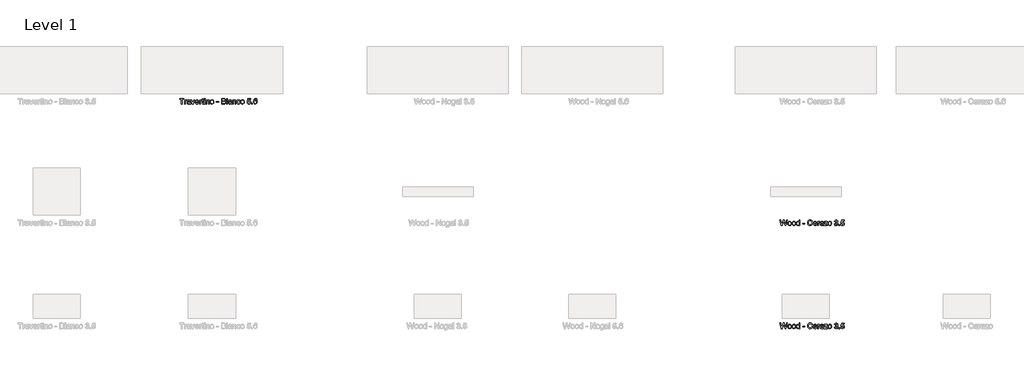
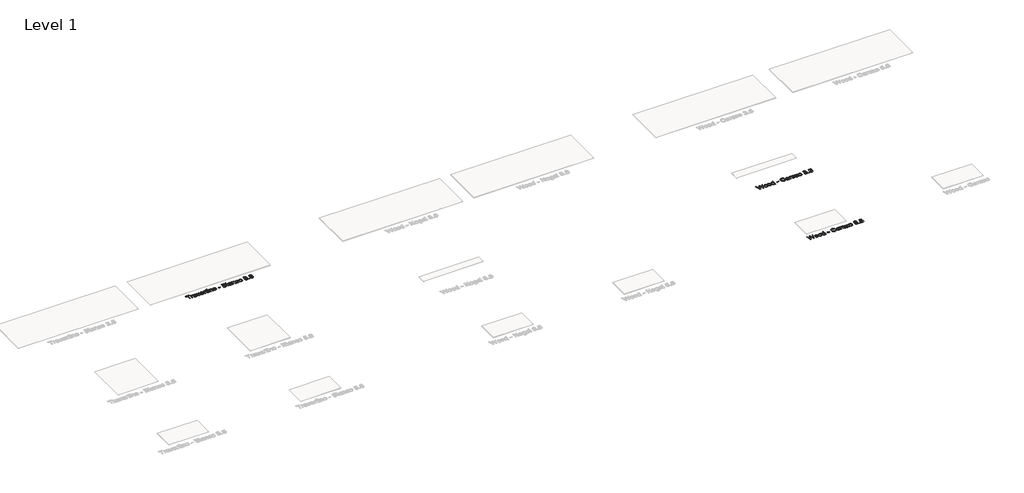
# One storey, part 22 of 80: 3 proxies.
"""IFC4 building model written with IfcOpenShell, lengths in millimetres."""

from ifc_helpers import new_model, si_unit, origin, origin_with_axes, place, context, project, spatial, polyline, outline, extrude, element, save

model = new_model("IFC4")

# Units and contexts
model_context = context("Model", 3, world=origin())
ifc_project = project(units=[si_unit("LENGTHUNIT", "METRE", prefix="MILLI")], contexts=[model_context])

# Site, building, storey
site = spatial("IfcSite", under=ifc_project)
building = spatial("IfcBuilding", under=site)
storey = spatial("IfcBuildingStorey", under=building, Name="Level 1", Elevation=0.0)

# Proxies
placement = place(None, origin())
element("IfcBuildingElementProxy", 1, Name="24\" Arial", ObjectType="24\" Arial", at=placement, inside=storey, context=model_context, shape_type="SweptSolid", body=[
    extrude(outline(polyline([(-15856.3068771, -7643.0201601), (-15856.3068771, -7539.6355447), (-15895.0761079, -7539.6355447), (-15895.0761079, -7524.8663139), (-15802.7684156, -7524.8663139), (-15802.7684156, -7539.6355447), (-15841.5376464, -7539.6355447), (-15841.5376464, -7643.0201601), (-15856.3068771, -7643.0201601)])), origin_with_axes(), (0.0, 0.0, 1.0), 2.0),
    extrude(outline(polyline([(-15787.9991848, -7643.0201601), (-15787.9991848, -7556.2509293), (-15775.0761079, -7556.2509293), (-15775.0761079, -7569.0874678), (-15765.903031, -7557.2605447), (-15756.6722617, -7554.4047755), (-15741.8453387, -7558.9624678), (-15746.778031, -7572.2028524), (-15757.1626464, -7569.1740062), (-15765.5136079, -7572.0874678), (-15770.8357233, -7580.1643908), (-15773.2299541, -7597.4143908), (-15773.2299541, -7643.0201601), (-15787.9991848, -7643.0201601)])), origin_with_axes(), (0.0, 0.0, 1.0), 2.0),
    extrude(outline(polyline([(-15677.2299541, -7631.943237), (-15691.5520694, -7641.9528524), (-15707.3741848, -7644.8663139), (-15719.7167329, -7643.1139101), (-15728.8213002, -7637.8566985), (-15734.4354829, -7629.8735255), (-15736.3068771, -7619.943237), (-15733.4799541, -7608.2605447), (-15726.0520694, -7599.7797755), (-15715.7107233, -7594.9336216), (-15702.9318771, -7592.7124678), (-15677.3164925, -7587.6355447), (-15677.2299541, -7584.3470831), (-15681.2972617, -7573.443237), (-15697.6241848, -7569.1740062), (-15712.5664925, -7572.0153524), (-15719.6914925, -7582.0970831), (-15734.4607233, -7580.2509293), (-15728.0713002, -7565.8278524), (-15715.2059156, -7557.3759293), (-15695.7203387, -7554.4047755), (-15677.8213002, -7557.0297755), (-15667.7107233, -7563.6211216), (-15663.1818771, -7573.6451601), (-15662.4607233, -7586.568237), (-15662.4607233, -7604.943237), (-15661.7107233, -7630.6018908), (-15658.7684156, -7643.0201601), (-15673.5376464, -7643.0201601), (-15677.2299541, -7631.943237)]), holes=[polyline([(-15677.2299541, -7602.4047755), (-15701.0568771, -7606.9336216), (-15713.7636079, -7609.3278524), (-15719.5184156, -7613.2220831), (-15721.5376464, -7618.9047755), (-15717.1386079, -7626.8951601), (-15704.2299541, -7630.0970831), (-15689.2876464, -7626.5634293), (-15679.653031, -7618.0105447), (-15677.3164925, -7606.5874678), (-15677.2299541, -7602.4047755)])]), origin_with_axes(), (0.0, 0.0, 1.0), 2.0),
    extrude(outline(polyline([(-15620.8645694, -7643.0201601), (-15651.3838002, -7556.2509293), (-15635.7491848, -7556.2509293), (-15617.2588002, -7608.2316985), (-15611.6914925, -7625.7124678), (-15606.2395694, -7609.2124678), (-15587.6338002, -7556.2509293), (-15571.9991848, -7556.2509293), (-15602.1434156, -7643.0201601), (-15620.8645694, -7643.0201601)])), origin_with_axes(), (0.0, 0.0, 1.0), 2.0),
    extrude(outline(polyline([(-15498.3261079, -7617.1740062), (-15483.8453387, -7619.0201601), (-15489.0628867, -7629.9312178), (-15497.3886079, -7638.0874678), (-15508.6350021, -7643.1716024), (-15522.6145694, -7644.8663139), (-15539.9438964, -7641.9420351), (-15553.278031, -7633.1691985), (-15561.7804348, -7619.1175158), (-15564.6145694, -7600.3566985), (-15561.7515887, -7580.9648716), (-15553.1626464, -7566.4624678), (-15540.0088002, -7557.4191985), (-15523.4511079, -7554.4047755), (-15507.4090406, -7557.411987), (-15494.590531, -7566.4336216), (-15486.1854829, -7580.9071793), (-15483.3838002, -7600.2701601), (-15483.4703387, -7604.2509293), (-15549.8453387, -7604.2509293), (-15547.2888483, -7615.3062178), (-15541.3501464, -7623.4336216), (-15532.7792329, -7628.4312178), (-15522.3261079, -7630.0970831), (-15507.8453387, -7627.0105447), (-15498.3261079, -7617.1740062)]), holes=[polyline([(-15549.8453387, -7589.4816985), (-15498.153031, -7589.4816985), (-15504.0664925, -7576.0970831), (-15512.6770694, -7570.9047755), (-15523.5088002, -7569.1740062), (-15541.6963002, -7574.6980447), (-15547.418656, -7581.1559774), (-15549.8453387, -7589.4816985)])]), origin_with_axes(), (0.0, 0.0, 1.0), 2.0),
    extrude(outline(polyline([(-15468.6145694, -7643.0201601), (-15468.6145694, -7556.2509293), (-15455.6914925, -7556.2509293), (-15455.6914925, -7569.0874678), (-15446.5184156, -7557.2605447), (-15437.2876464, -7554.4047755), (-15422.4607233, -7558.9624678), (-15427.3934156, -7572.2028524), (-15437.778031, -7569.1740062), (-15446.1289925, -7572.0874678), (-15451.4511079, -7580.1643908), (-15453.8453387, -7597.4143908), (-15453.8453387, -7643.0201601), (-15468.6145694, -7643.0201601)])), origin_with_axes(), (0.0, 0.0, 1.0), 2.0),
    extrude(outline(polyline([(-15381.8453387, -7630.7028524), (-15379.9991848, -7643.4528524), (-15391.0472617, -7644.8663139), (-15403.4222617, -7642.4143908), (-15409.5953387, -7635.9816985), (-15411.3838002, -7619.2220831), (-15411.3838002, -7571.0201601), (-15422.4607233, -7571.0201601), (-15422.4607233, -7556.2509293), (-15411.3838002, -7556.2509293), (-15411.3838002, -7535.1643908), (-15396.6145694, -7526.4816985), (-15396.6145694, -7556.2509293), (-15381.8453387, -7556.2509293), (-15381.8453387, -7571.0201601), (-15396.6145694, -7571.0201601), (-15396.6145694, -7618.7893908), (-15395.8357233, -7626.4047755), (-15393.3116848, -7629.1018908), (-15388.278031, -7630.0970831), (-15381.8453387, -7630.7028524)])), origin_with_axes(), (0.0, 0.0, 1.0), 2.0),
    extrude(outline(polyline([(-15367.0761079, -7539.6355447), (-15367.0761079, -7524.8663139), (-15352.3068771, -7524.8663139), (-15352.3068771, -7539.6355447), (-15367.0761079, -7539.6355447)])), origin_with_axes(), (0.0, 0.0, 1.0), 2.0),
    extrude(outline(polyline([(-15367.0761079, -7643.0201601), (-15367.0761079, -7556.2509293), (-15352.3068771, -7556.2509293), (-15352.3068771, -7643.0201601), (-15367.0761079, -7643.0201601)])), origin_with_axes(), (0.0, 0.0, 1.0), 2.0),
    extrude(outline(polyline([(-15330.153031, -7643.0201601), (-15330.153031, -7556.2509293), (-15315.3838002, -7556.2509293), (-15315.3838002, -7568.3663139), (-15304.090531, -7557.8951601), (-15288.6722617, -7554.4047755), (-15274.7251464, -7557.2172755), (-15265.2059156, -7564.6018908), (-15260.778031, -7575.4624678), (-15259.9991848, -7589.7413139), (-15259.9991848, -7643.0201601), (-15274.7684156, -7643.0201601), (-15274.7684156, -7591.7316985), (-15276.4703387, -7578.6643908), (-15282.4847617, -7571.755737), (-15292.6241848, -7569.1740062), (-15308.6482233, -7574.9720831), (-15313.699906, -7583.3735255), (-15315.3838002, -7596.9816985), (-15315.3838002, -7643.0201601), (-15330.153031, -7643.0201601)])), origin_with_axes(), (0.0, 0.0, 1.0), 2.0),
    extrude(outline(polyline([(-15243.3838002, -7599.6355447), (-15240.1890887, -7578.7148716), (-15230.6049541, -7564.0105447), (-15218.7636079, -7556.8062178), (-15204.5857233, -7554.4047755), (-15189.0700983, -7557.3290543), (-15176.6770694, -7566.1018908), (-15168.5532714, -7580.0309774), (-15165.8453387, -7598.4240062), (-15170.6338002, -7624.7028524), (-15184.5809156, -7639.5730447), (-15204.5857233, -7644.8663139), (-15220.2888483, -7641.9528524), (-15232.6674541, -7633.2124678), (-15240.7047137, -7618.9913139), (-15243.3838002, -7599.6355447)]), holes=[polyline([(-15228.6145694, -7599.6066985), (-15226.9054348, -7612.9732851), (-15221.778031, -7622.4961216), (-15214.0616848, -7628.1968428), (-15204.5857233, -7630.0970831), (-15195.153031, -7628.1860255), (-15187.4511079, -7622.4528524), (-15182.3237041, -7612.8038139), (-15180.6145694, -7599.1451601), (-15182.3345214, -7586.1679966), (-15187.4943771, -7576.7749678), (-15195.2071175, -7571.0742466), (-15204.5857233, -7569.1740062), (-15214.0616848, -7571.0670351), (-15221.778031, -7576.7461216), (-15226.9054348, -7586.2473235), (-15228.6145694, -7599.6066985)])]), origin_with_axes(), (0.0, 0.0, 1.0), 2.0),
    extrude(outline(polyline([(-15110.4607233, -7607.943237), (-15110.4607233, -7593.1740062), (-15064.3068771, -7593.1740062), (-15064.3068771, -7607.943237), (-15110.4607233, -7607.943237)])), origin_with_axes(), (0.0, 0.0, 1.0), 2.0),
    extrude(outline(polyline([(-14999.6914925, -7643.0201601), (-14999.6914925, -7524.8663139), (-14954.6049541, -7524.8663139), (-14932.5232233, -7528.3422755), (-14919.4847617, -7539.0297755), (-14914.7684156, -7554.1451601), (-14918.7347617, -7567.9480447), (-14930.7203387, -7578.4047755), (-14916.1674541, -7589.4240062), (-14911.0761079, -7607.7990062), (-14914.5520694, -7623.6788139), (-14923.1626464, -7634.9865062), (-14936.0136079, -7640.9865062), (-14954.9511079, -7643.0201601), (-14999.6914925, -7643.0201601)]), holes=[polyline([(-14984.9222617, -7628.2509293), (-14954.6338002, -7628.2509293), (-14943.6722617, -7627.6740062), (-14934.3982233, -7624.4576601), (-14928.2539925, -7617.8951601), (-14925.8453387, -7607.943237), (-14928.6722617, -7596.4624678), (-14937.8309156, -7589.6115062), (-14956.0761079, -7587.6355447), (-14984.9222617, -7587.6355447), (-14984.9222617, -7628.2509293)]), polyline([(-14984.9222617, -7572.8663139), (-14957.9511079, -7572.8663139), (-14942.2011079, -7571.5970831), (-14932.7251464, -7566.130737), (-14929.5376464, -7556.5105447), (-14932.5088002, -7546.8759293), (-14941.0184156, -7541.1788139), (-14959.9991848, -7539.6355447), (-14984.9222617, -7539.6355447), (-14984.9222617, -7572.8663139)])]), origin_with_axes(), (0.0, 0.0, 1.0), 2.0),
    extrude(outline(polyline([(-14892.6145694, -7643.0201601), (-14892.6145694, -7524.8663139), (-14877.8453387, -7524.8663139), (-14877.8453387, -7643.0201601), (-14892.6145694, -7643.0201601)])), origin_with_axes(), (0.0, 0.0, 1.0), 2.0),
    extrude(outline(polyline([(-14800.3068771, -7631.943237), (-14814.6289925, -7641.9528524), (-14830.4511079, -7644.8663139), (-14842.793656, -7643.1139101), (-14851.8982233, -7637.8566985), (-14857.512406, -7629.8735255), (-14859.3838002, -7619.943237), (-14856.5568771, -7608.2605447), (-14849.1289925, -7599.7797755), (-14838.7876464, -7594.9336216), (-14826.0088002, -7592.7124678), (-14800.3934156, -7587.6355447), (-14800.3068771, -7584.3470831), (-14804.3741848, -7573.443237), (-14820.7011079, -7569.1740062), (-14835.6434156, -7572.0153524), (-14842.7684156, -7582.0970831), (-14857.5376464, -7580.2509293), (-14851.1482233, -7565.8278524), (-14838.2828387, -7557.3759293), (-14818.7972617, -7554.4047755), (-14800.8982233, -7557.0297755), (-14790.7876464, -7563.6211216), (-14786.2588002, -7573.6451601), (-14785.5376464, -7586.568237), (-14785.5376464, -7604.943237), (-14784.7876464, -7630.6018908), (-14781.8453387, -7643.0201601), (-14796.6145694, -7643.0201601), (-14800.3068771, -7631.943237)]), holes=[polyline([(-14800.3068771, -7602.4047755), (-14824.1338002, -7606.9336216), (-14836.840531, -7609.3278524), (-14842.5953387, -7613.2220831), (-14844.6145694, -7618.9047755), (-14840.215531, -7626.8951601), (-14827.3068771, -7630.0970831), (-14812.3645694, -7626.5634293), (-14802.7299541, -7618.0105447), (-14800.3934156, -7606.5874678), (-14800.3068771, -7602.4047755)])]), origin_with_axes(), (0.0, 0.0, 1.0), 2.0),
    extrude(outline(polyline([(-14765.2299541, -7643.0201601), (-14765.2299541, -7556.2509293), (-14750.4607233, -7556.2509293), (-14750.4607233, -7568.3663139), (-14739.1674541, -7557.8951601), (-14723.7491848, -7554.4047755), (-14709.8020694, -7557.2172755), (-14700.2828387, -7564.6018908), (-14695.8549541, -7575.4624678), (-14695.0761079, -7589.7413139), (-14695.0761079, -7643.0201601), (-14709.8453387, -7643.0201601), (-14709.8453387, -7591.7316985), (-14711.5472617, -7578.6643908), (-14717.5616848, -7571.755737), (-14727.7011079, -7569.1740062), (-14743.7251464, -7574.9720831), (-14748.7768291, -7583.3735255), (-14750.4607233, -7596.9816985), (-14750.4607233, -7643.0201601), (-14765.2299541, -7643.0201601)])), origin_with_axes(), (0.0, 0.0, 1.0), 2.0),
    extrude(outline(polyline([(-14619.3838002, -7611.6355447), (-14604.6145694, -7613.4816985), (-14608.7323579, -7626.6175158), (-14616.4703387, -7636.5441985), (-14627.1001464, -7642.7857851), (-14639.8934156, -7644.8663139), (-14655.6037521, -7641.9636697), (-14667.8886079, -7633.255737), (-14675.8176944, -7619.1247274), (-14678.4607233, -7599.9528524), (-14673.9463002, -7575.4191985), (-14668.2491848, -7566.2208812), (-14660.1866848, -7559.6547755), (-14640.0953387, -7554.4047755), (-14627.6157714, -7556.2076601), (-14617.6386079, -7561.6163139), (-14610.481156, -7570.3422755), (-14606.4607233, -7582.0970831), (-14621.2299541, -7583.943237), (-14628.0809156, -7572.880737), (-14639.9799541, -7569.1740062), (-14649.5244252, -7570.9985255), (-14657.1001464, -7576.4720831), (-14662.043656, -7585.8903524), (-14663.6914925, -7599.5490062), (-14662.0797137, -7613.3915543), (-14657.2443771, -7622.8422755), (-14649.8056752, -7628.2833812), (-14640.3838002, -7630.0970831), (-14626.465531, -7625.568237), (-14619.3838002, -7611.6355447)])), origin_with_axes(), (0.0, 0.0, 1.0), 2.0),
    extrude(outline(polyline([(-14595.3838002, -7599.6355447), (-14592.1890887, -7578.7148716), (-14582.6049541, -7564.0105447), (-14570.7636079, -7556.8062178), (-14556.5857233, -7554.4047755), (-14541.0700983, -7557.3290543), (-14528.6770694, -7566.1018908), (-14520.5532714, -7580.0309774), (-14517.8453387, -7598.4240062), (-14522.6338002, -7624.7028524), (-14536.5809156, -7639.5730447), (-14556.5857233, -7644.8663139), (-14572.2888483, -7641.9528524), (-14584.6674541, -7633.2124678), (-14592.7047137, -7618.9913139), (-14595.3838002, -7599.6355447)]), holes=[polyline([(-14580.6145694, -7599.6066985), (-14578.9054348, -7612.9732851), (-14573.778031, -7622.4961216), (-14566.0616848, -7628.1968428), (-14556.5857233, -7630.0970831), (-14547.153031, -7628.1860255), (-14539.4511079, -7622.4528524), (-14534.3237041, -7612.8038139), (-14532.6145694, -7599.1451601), (-14534.3345214, -7586.1679966), (-14539.4943771, -7576.7749678), (-14547.2071175, -7571.0742466), (-14556.5857233, -7569.1740062), (-14566.0616848, -7571.0670351), (-14573.778031, -7576.7461216), (-14578.9054348, -7586.2473235), (-14580.6145694, -7599.6066985)])]), origin_with_axes(), (0.0, 0.0, 1.0), 2.0),
    extrude(outline(polyline([(-14458.7684156, -7611.6355447), (-14443.9991848, -7609.7893908), (-14436.5568771, -7625.005737), (-14421.1241848, -7630.0970831), (-14410.5376464, -7628.3266505), (-14402.6049541, -7623.0153524), (-14397.6506271, -7614.7761697), (-14395.9991848, -7604.2220831), (-14397.5460598, -7594.2845831), (-14402.1866848, -7586.6836216), (-14409.9571175, -7581.8591024), (-14420.8934156, -7580.2509293), (-14433.8597617, -7582.818237), (-14442.153031, -7589.4816985), (-14456.9222617, -7587.6355447), (-14443.9991848, -7526.7124678), (-14386.7684156, -7526.7124678), (-14386.7684156, -7541.4816985), (-14432.0568771, -7541.4816985), (-14438.3741848, -7574.0201601), (-14427.8237041, -7567.6163139), (-14416.7684156, -7565.4816985), (-14402.9691367, -7568.1283331), (-14391.5136079, -7576.068237), (-14383.8008675, -7588.1691985), (-14381.2299541, -7603.2990062), (-14383.5448579, -7618.068237), (-14390.4895694, -7630.7028524), (-14403.7876464, -7641.3254485), (-14421.1818771, -7644.8663139), (-14435.6878867, -7642.5910735), (-14447.2443771, -7635.7653524), (-14455.1662521, -7625.1824197), (-14458.7684156, -7611.6355447)])), origin_with_axes(), (0.0, 0.0, 1.0), 2.0),
    extrude(outline(polyline([(-14360.9222617, -7643.0201601), (-14360.9222617, -7628.2509293), (-14346.153031, -7628.2509293), (-14346.153031, -7643.0201601), (-14360.9222617, -7643.0201601)])), origin_with_axes(), (0.0, 0.0, 1.0), 2.0),
    extrude(outline(polyline([(-14246.4607233, -7556.2509293), (-14261.2299541, -7558.0970831), (-14266.8261079, -7545.7797755), (-14273.5256271, -7541.1716024), (-14281.6241848, -7539.6355447), (-14294.9511079, -7543.2124678), (-14305.0328387, -7556.6403524), (-14309.2299541, -7582.9624678), (-14296.2059156, -7571.1788139), (-14280.0664925, -7567.3278524), (-14266.4222617, -7569.9600639), (-14254.9703387, -7577.8566985), (-14247.2035117, -7589.9216024), (-14244.6145694, -7605.0586216), (-14249.4895694, -7625.4384293), (-14262.903031, -7639.8615062), (-14282.2588002, -7644.8663139), (-14299.0148098, -7641.5490062), (-14312.3597617, -7631.5970831), (-14321.0893291, -7614.0297755), (-14323.9991848, -7587.8663139), (-14320.7684156, -7558.4504485), (-14311.0761079, -7538.3374678), (-14297.8429348, -7528.2341024), (-14280.7011079, -7524.8663139), (-14267.7419733, -7526.9504485), (-14257.3645694, -7533.2028524), (-14250.0953387, -7543.1331408), (-14246.4607233, -7556.2509293)]), holes=[polyline([(-14309.2299541, -7604.8278524), (-14305.8116848, -7617.6211216), (-14296.7251464, -7626.9095831), (-14283.4126464, -7630.0970831), (-14273.6662521, -7628.4456408), (-14266.0039925, -7623.4913139), (-14261.0388483, -7615.7028524), (-14259.3838002, -7605.5490062), (-14261.0172137, -7595.802612), (-14265.9174541, -7588.3711216), (-14273.7095214, -7583.6655928), (-14284.0184156, -7582.0970831), (-14293.7503867, -7583.6655928), (-14301.8886079, -7588.3711216), (-14307.3946175, -7595.6223235), (-14309.2299541, -7604.8278524)])]), origin_with_axes(), (0.0, 0.0, 1.0), 2.0),
])
element("IfcBuildingElementProxy", 2, Name="24\" Arial", ObjectType="24\" Arial", at=placement, inside=storey, context=model_context, shape_type="SweptSolid", body=[
    extrude(outline(polyline([(-3105.3164925, -10230.2191462), (-3137.5376464, -10112.0653001), (-3122.3068771, -10112.0653001), (-3103.6145694, -10189.7191462), (-3097.8453387, -10213.6903001), (-3091.6722617, -10192.488377), (-3068.2491848, -10112.0653001), (-3046.2972617, -10112.0653001), (-3029.278031, -10170.363377), (-3016.6145694, -10213.6903001), (-3011.0184156, -10190.4114539), (-2992.153031, -10112.0653001), (-2976.9222617, -10112.0653001), (-3009.1722617, -10230.2191462), (-3024.9511079, -10230.2191462), (-3053.278031, -10139.0653001), (-3057.2299541, -10126.3441462), (-3061.6722617, -10141.6614539), (-3087.4895694, -10230.2191462), (-3105.3164925, -10230.2191462)])), origin_with_axes(), (0.0, 0.0, 1.0), 2.0),
    extrude(outline(polyline([(-2967.6914925, -10186.8345308), (-2964.496781, -10165.9138577), (-2954.9126464, -10151.2095308), (-2943.0713002, -10144.0052039), (-2928.8934156, -10141.6037616), (-2913.3777906, -10144.5280404), (-2900.9847617, -10153.300877), (-2892.8609637, -10167.2299635), (-2890.153031, -10185.6229924), (-2894.9414925, -10211.9018385), (-2908.8886079, -10226.7720308), (-2928.8934156, -10232.0653001), (-2944.5965406, -10229.1518385), (-2956.9751464, -10220.4114539), (-2965.012406, -10206.1903001), (-2967.6914925, -10186.8345308)]), holes=[polyline([(-2952.9222617, -10186.8056847), (-2951.2131271, -10200.1722712), (-2946.0857233, -10209.6951077), (-2938.3693771, -10215.3958289), (-2928.8934156, -10217.2960693), (-2919.4607233, -10215.3850116), (-2911.7588002, -10209.6518385), (-2906.6313964, -10200.0028001), (-2904.9222617, -10186.3441462), (-2906.6422137, -10173.3669827), (-2911.8020694, -10163.9739539), (-2919.5148098, -10158.2732327), (-2928.8934156, -10156.3729924), (-2938.3693771, -10158.2660212), (-2946.0857233, -10163.9451077), (-2951.2131271, -10173.4463097), (-2952.9222617, -10186.8056847)])]), origin_with_axes(), (0.0, 0.0, 1.0), 2.0),
    extrude(outline(polyline([(-2877.2299541, -10186.8345308), (-2874.0352425, -10165.9138577), (-2864.4511079, -10151.2095308), (-2852.6097617, -10144.0052039), (-2838.4318771, -10141.6037616), (-2822.9162521, -10144.5280404), (-2810.5232233, -10153.300877), (-2802.3994252, -10167.2299635), (-2799.6914925, -10185.6229924), (-2804.4799541, -10211.9018385), (-2818.4270694, -10226.7720308), (-2838.4318771, -10232.0653001), (-2854.1350021, -10229.1518385), (-2866.5136079, -10220.4114539), (-2874.5508675, -10206.1903001), (-2877.2299541, -10186.8345308)]), holes=[polyline([(-2862.4607233, -10186.8056847), (-2860.7515887, -10200.1722712), (-2855.6241848, -10209.6951077), (-2847.9078387, -10215.3958289), (-2838.4318771, -10217.2960693), (-2828.9991848, -10215.3850116), (-2821.2972617, -10209.6518385), (-2816.1698579, -10200.0028001), (-2814.4607233, -10186.3441462), (-2816.1806752, -10173.3669827), (-2821.340531, -10163.9739539), (-2829.0532714, -10158.2732327), (-2838.4318771, -10156.3729924), (-2847.9078387, -10158.2660212), (-2855.6241848, -10163.9451077), (-2860.7515887, -10173.4463097), (-2862.4607233, -10186.8056847)])]), origin_with_axes(), (0.0, 0.0, 1.0), 2.0),
    extrude(outline(polyline([(-2729.5376464, -10230.2191462), (-2729.5376464, -10216.2864539), (-2739.309281, -10228.1205885), (-2752.8164925, -10232.0653001), (-2771.1049541, -10226.3537616), (-2784.028031, -10210.4162616), (-2788.6145694, -10186.9210693), (-2784.3886079, -10163.4114539), (-2779.1097617, -10154.0869347), (-2771.7251464, -10147.2287616), (-2752.8741848, -10141.6037616), (-2739.2588002, -10145.6278001), (-2729.5376464, -10156.0845308), (-2729.5376464, -10112.0653001), (-2714.7684156, -10112.0653001), (-2714.7684156, -10230.2191462), (-2729.5376464, -10230.2191462)]), holes=[polyline([(-2773.8453387, -10186.863377), (-2772.1794733, -10200.222752), (-2767.1818771, -10209.7239539), (-2759.9198579, -10215.4030404), (-2751.4607233, -10217.2960693), (-2743.0051944, -10215.4895789), (-2735.9270694, -10210.0701077), (-2731.1350021, -10200.9366943), (-2729.5376464, -10187.988377), (-2731.1638483, -10173.832127), (-2736.0424541, -10164.0172231), (-2743.3008675, -10158.2840501), (-2752.0664925, -10156.3729924), (-2760.6121656, -10158.2083289), (-2767.6145694, -10163.7143385), (-2772.2876464, -10173.1722712), (-2773.8453387, -10186.863377)])]), origin_with_axes(), (0.0, 0.0, 1.0), 2.0),
    extrude(outline(polyline([(-2653.8453387, -10195.1422231), (-2653.8453387, -10180.3729924), (-2607.6914925, -10180.3729924), (-2607.6914925, -10195.1422231), (-2653.8453387, -10195.1422231)])), origin_with_axes(), (0.0, 0.0, 1.0), 2.0),
    extrude(outline(polyline([(-2459.9991848, -10188.2191462), (-2445.2299541, -10192.0268385), (-2452.0448579, -10209.2371751), (-2462.7395694, -10221.8104924), (-2476.7876464, -10229.5015981), (-2493.6626464, -10232.0653001), (-2510.793656, -10230.1253962), (-2524.3982233, -10224.3056847), (-2534.8261079, -10214.8080885), (-2542.4270694, -10201.8345308), (-2547.0676944, -10186.582127), (-2548.6145694, -10170.2479924), (-2546.8657714, -10153.019627), (-2541.6193771, -10138.1422231), (-2533.1494252, -10126.0881366), (-2521.7299541, -10117.3297231), (-2508.1866848, -10111.9967904), (-2493.3453387, -10110.2191462), (-2477.1518291, -10112.519627), (-2463.7636079, -10119.4210693), (-2453.5989444, -10130.4979924), (-2447.0761079, -10145.3249154), (-2461.8453387, -10148.8441462), (-2466.965531, -10138.0737135), (-2473.9607233, -10130.6854924), (-2482.9174541, -10126.4126558), (-2493.9222617, -10124.988377), (-2506.6073579, -10126.5677039), (-2517.028031, -10131.3056847), (-2524.9354829, -10138.7047231), (-2530.0809156, -10148.2672231), (-2533.8453387, -10170.2191462), (-2529.3886079, -10195.6614539), (-2523.6914925, -10205.1626558), (-2515.5136079, -10211.9162616), (-2495.1338002, -10217.2960693), (-2482.8056752, -10215.4643385), (-2472.5328387, -10209.9691462), (-2464.7768291, -10200.8681847), (-2459.9991848, -10188.2191462)])), origin_with_axes(), (0.0, 0.0, 1.0), 2.0),
    extrude(outline(polyline([(-2366.0184156, -10204.3729924), (-2351.5376464, -10206.2191462), (-2356.7551944, -10217.1302039), (-2365.0809156, -10225.2864539), (-2376.3273098, -10230.3705885), (-2390.3068771, -10232.0653001), (-2407.6362041, -10229.1410212), (-2420.9703387, -10220.3681847), (-2429.4727425, -10206.316502), (-2432.3068771, -10187.5556847), (-2429.4438964, -10168.1638577), (-2420.8549541, -10153.6614539), (-2407.7011079, -10144.6181847), (-2391.1434156, -10141.6037616), (-2375.1013483, -10144.6109731), (-2362.2828387, -10153.6326077), (-2353.8777906, -10168.1061654), (-2351.0761079, -10187.4691462), (-2351.1626464, -10191.4499154), (-2417.5376464, -10191.4499154), (-2414.981156, -10202.5052039), (-2409.0424541, -10210.6326077), (-2400.4715406, -10215.6302039), (-2390.0184156, -10217.2960693), (-2375.5376464, -10214.2095308), (-2366.0184156, -10204.3729924)]), holes=[polyline([(-2417.5376464, -10176.6806847), (-2365.8453387, -10176.6806847), (-2371.7588002, -10163.2960693), (-2380.3693771, -10158.1037616), (-2391.2011079, -10156.3729924), (-2409.3886079, -10161.8970308), (-2415.1109637, -10168.3549635), (-2417.5376464, -10176.6806847)])]), origin_with_axes(), (0.0, 0.0, 1.0), 2.0),
    extrude(outline(polyline([(-2336.3068771, -10230.2191462), (-2336.3068771, -10143.4499154), (-2323.3838002, -10143.4499154), (-2323.3838002, -10156.2864539), (-2314.2107233, -10144.4595308), (-2304.9799541, -10141.6037616), (-2290.153031, -10146.1614539), (-2295.0857233, -10159.4018385), (-2305.4703387, -10156.3729924), (-2313.8213002, -10159.2864539), (-2319.1434156, -10167.363377), (-2321.5376464, -10184.613377), (-2321.5376464, -10230.2191462), (-2336.3068771, -10230.2191462)])), origin_with_axes(), (0.0, 0.0, 1.0), 2.0),
    extrude(outline(polyline([(-2220.1722617, -10204.3729924), (-2205.6914925, -10206.2191462), (-2210.9090406, -10217.1302039), (-2219.2347617, -10225.2864539), (-2230.481156, -10230.3705885), (-2244.4607233, -10232.0653001), (-2261.7900502, -10229.1410212), (-2275.1241848, -10220.3681847), (-2283.6265887, -10206.316502), (-2286.4607233, -10187.5556847), (-2283.5977425, -10168.1638577), (-2275.0088002, -10153.6614539), (-2261.8549541, -10144.6181847), (-2245.2972617, -10141.6037616), (-2229.2551944, -10144.6109731), (-2216.4366848, -10153.6326077), (-2208.0316367, -10168.1061654), (-2205.2299541, -10187.4691462), (-2205.3164925, -10191.4499154), (-2271.6914925, -10191.4499154), (-2269.1350021, -10202.5052039), (-2263.1963002, -10210.6326077), (-2254.6253867, -10215.6302039), (-2244.1722617, -10217.2960693), (-2229.6914925, -10214.2095308), (-2220.1722617, -10204.3729924)]), holes=[polyline([(-2271.6914925, -10176.6806847), (-2219.9991848, -10176.6806847), (-2225.9126464, -10163.2960693), (-2234.5232233, -10158.1037616), (-2245.3549541, -10156.3729924), (-2263.5424541, -10161.8970308), (-2269.2648098, -10168.3549635), (-2271.6914925, -10176.6806847)])]), origin_with_axes(), (0.0, 0.0, 1.0), 2.0),
    extrude(outline(polyline([(-2199.6914925, -10230.2191462), (-2199.6914925, -10216.3153001), (-2148.7203387, -10158.2191462), (-2163.8068771, -10158.2191462), (-2195.9991848, -10158.2191462), (-2195.9991848, -10143.4499154), (-2127.6914925, -10143.4499154), (-2127.6914925, -10155.9979924), (-2172.8934156, -10207.5460693), (-2179.8164925, -10215.4499154), (-2162.7395694, -10215.4499154), (-2125.8453387, -10215.4499154), (-2125.8453387, -10230.2191462), (-2199.6914925, -10230.2191462)])), origin_with_axes(), (0.0, 0.0, 1.0), 2.0),
    extrude(outline(polyline([(-2114.7684156, -10186.8345308), (-2111.5737041, -10165.9138577), (-2101.9895694, -10151.2095308), (-2090.1482233, -10144.0052039), (-2075.9703387, -10141.6037616), (-2060.4547137, -10144.5280404), (-2048.0616848, -10153.300877), (-2039.9378867, -10167.2299635), (-2037.2299541, -10185.6229924), (-2042.0184156, -10211.9018385), (-2055.965531, -10226.7720308), (-2075.9703387, -10232.0653001), (-2091.6734637, -10229.1518385), (-2104.0520694, -10220.4114539), (-2112.0893291, -10206.1903001), (-2114.7684156, -10186.8345308)]), holes=[polyline([(-2099.9991848, -10186.8056847), (-2098.2900502, -10200.1722712), (-2093.1626464, -10209.6951077), (-2085.4463002, -10215.3958289), (-2075.9703387, -10217.2960693), (-2066.5376464, -10215.3850116), (-2058.8357233, -10209.6518385), (-2053.7083194, -10200.0028001), (-2051.9991848, -10186.3441462), (-2053.7191367, -10173.3669827), (-2058.8789925, -10163.9739539), (-2066.5917329, -10158.2732327), (-2075.9703387, -10156.3729924), (-2085.4463002, -10158.2660212), (-2093.1626464, -10163.9451077), (-2098.2900502, -10173.4463097), (-2099.9991848, -10186.8056847)])]), origin_with_axes(), (0.0, 0.0, 1.0), 2.0),
    extrude(outline(polyline([(-1978.153031, -10198.8345308), (-1963.3838002, -10196.988377), (-1955.2347617, -10212.5364539), (-1939.9895694, -10217.2960693), (-1929.8645694, -10215.6590501), (-1922.0472617, -10210.7479924), (-1917.0496656, -10203.4210693), (-1915.3838002, -10194.5364539), (-1917.0352425, -10186.1025597), (-1921.9895694, -10179.2624154), (-1929.4895694, -10174.7299635), (-1938.778031, -10173.2191462), (-1949.1338002, -10174.8345308), (-1947.4895694, -10160.0653001), (-1945.1241848, -10160.238377), (-1928.3645694, -10155.9979924), (-1922.7828387, -10150.6181847), (-1920.9222617, -10142.9595308), (-1926.3164925, -10131.4066462), (-1940.2203387, -10126.8345308), (-1954.2972617, -10131.4499154), (-1961.5376464, -10145.2960693), (-1976.3068771, -10143.4499154), (-1971.9583194, -10130.1878962), (-1964.2203387, -10120.2864539), (-1953.6338002, -10114.1205885), (-1940.7395694, -10112.0653001), (-1922.9270694, -10116.1181847), (-1910.465531, -10127.1951077), (-1906.153031, -10142.0941462), (-1910.2491848, -10155.7095308), (-1922.3645694, -10165.488377), (-1913.1193771, -10169.2239539), (-1906.2684156, -10175.5845308), (-1902.028031, -10184.2239539), (-1900.6145694, -10194.7960693), (-1903.4414925, -10209.1903001), (-1911.9222617, -10221.2191462), (-1924.7227425, -10229.3537616), (-1940.5088002, -10232.0653001), (-1954.7876464, -10229.7503962), (-1966.4126464, -10222.8056847), (-1974.496781, -10212.1830885), (-1978.153031, -10198.8345308)])), origin_with_axes(), (0.0, 0.0, 1.0), 2.0),
    extrude(outline(polyline([(-1880.3068771, -10230.2191462), (-1880.3068771, -10215.4499154), (-1865.5376464, -10215.4499154), (-1865.5376464, -10230.2191462), (-1880.3068771, -10230.2191462)])), origin_with_axes(), (0.0, 0.0, 1.0), 2.0),
    extrude(outline(polyline([(-1841.5376464, -10198.8345308), (-1826.7684156, -10196.988377), (-1819.3261079, -10212.2047231), (-1803.8934156, -10217.2960693), (-1793.3068771, -10215.5256366), (-1785.3741848, -10210.2143385), (-1780.4198579, -10201.9751558), (-1778.7684156, -10191.4210693), (-1780.3152906, -10181.4835693), (-1784.9559156, -10173.8826077), (-1792.7263483, -10169.0580885), (-1803.6626464, -10167.4499154), (-1816.6289925, -10170.0172231), (-1824.9222617, -10176.6806847), (-1839.6914925, -10174.8345308), (-1826.7684156, -10113.9114539), (-1769.5376464, -10113.9114539), (-1769.5376464, -10128.6806847), (-1814.8261079, -10128.6806847), (-1821.1434156, -10161.2191462), (-1810.5929348, -10154.8153001), (-1799.5376464, -10152.6806847), (-1785.7383675, -10155.3273193), (-1774.2828387, -10163.2672231), (-1766.5700983, -10175.3681847), (-1763.9991848, -10190.4979924), (-1766.3140887, -10205.2672231), (-1773.2588002, -10217.9018385), (-1786.5568771, -10228.5244347), (-1803.9511079, -10232.0653001), (-1818.4571175, -10229.7900597), (-1830.0136079, -10222.9643385), (-1837.9354829, -10212.3814058), (-1841.5376464, -10198.8345308)])), origin_with_axes(), (0.0, 0.0, 1.0), 2.0),
])
element("IfcBuildingElementProxy", 3, Name="24\" Arial", ObjectType="24\" Arial", at=placement, inside=storey, context=model_context, shape_type="SweptSolid", body=[
    extrude(outline(polyline([(-3105.3164925, -12422.5921493), (-3137.5376464, -12304.4383031), (-3122.3068771, -12304.4383031), (-3103.6145694, -12382.0921493), (-3097.8453387, -12406.0633031), (-3091.6722617, -12384.86138), (-3068.2491848, -12304.4383031), (-3046.2972617, -12304.4383031), (-3029.278031, -12362.73638), (-3016.6145694, -12406.0633031), (-3011.0184156, -12382.784457), (-2992.153031, -12304.4383031), (-2976.9222617, -12304.4383031), (-3009.1722617, -12422.5921493), (-3024.9511079, -12422.5921493), (-3053.278031, -12331.4383031), (-3057.2299541, -12318.7171493), (-3061.6722617, -12334.034457), (-3087.4895694, -12422.5921493), (-3105.3164925, -12422.5921493)])), origin_with_axes(), (0.0, 0.0, 1.0), 2.0),
    extrude(outline(polyline([(-2967.6914925, -12379.2075339), (-2964.496781, -12358.2868608), (-2954.9126464, -12343.5825339), (-2943.0713002, -12336.378207), (-2928.8934156, -12333.9767646), (-2913.3777906, -12336.9010435), (-2900.9847617, -12345.67388), (-2892.8609637, -12359.6029666), (-2890.153031, -12377.9959954), (-2894.9414925, -12404.2748416), (-2908.8886079, -12419.1450339), (-2928.8934156, -12424.4383031), (-2944.5965406, -12421.5248416), (-2956.9751464, -12412.784457), (-2965.012406, -12398.5633031), (-2967.6914925, -12379.2075339)]), holes=[polyline([(-2952.9222617, -12379.1786877), (-2951.2131271, -12392.5452743), (-2946.0857233, -12402.0681108), (-2938.3693771, -12407.768832), (-2928.8934156, -12409.6690723), (-2919.4607233, -12407.7580146), (-2911.7588002, -12402.0248416), (-2906.6313964, -12392.3758031), (-2904.9222617, -12378.7171493), (-2906.6422137, -12365.7399858), (-2911.8020694, -12356.346957), (-2919.5148098, -12350.6462358), (-2928.8934156, -12348.7459954), (-2938.3693771, -12350.6390243), (-2946.0857233, -12356.3181108), (-2951.2131271, -12365.8193127), (-2952.9222617, -12379.1786877)])]), origin_with_axes(), (0.0, 0.0, 1.0), 2.0),
    extrude(outline(polyline([(-2877.2299541, -12379.2075339), (-2874.0352425, -12358.2868608), (-2864.4511079, -12343.5825339), (-2852.6097617, -12336.378207), (-2838.4318771, -12333.9767646), (-2822.9162521, -12336.9010435), (-2810.5232233, -12345.67388), (-2802.3994252, -12359.6029666), (-2799.6914925, -12377.9959954), (-2804.4799541, -12404.2748416), (-2818.4270694, -12419.1450339), (-2838.4318771, -12424.4383031), (-2854.1350021, -12421.5248416), (-2866.5136079, -12412.784457), (-2874.5508675, -12398.5633031), (-2877.2299541, -12379.2075339)]), holes=[polyline([(-2862.4607233, -12379.1786877), (-2860.7515887, -12392.5452743), (-2855.6241848, -12402.0681108), (-2847.9078387, -12407.768832), (-2838.4318771, -12409.6690723), (-2828.9991848, -12407.7580146), (-2821.2972617, -12402.0248416), (-2816.1698579, -12392.3758031), (-2814.4607233, -12378.7171493), (-2816.1806752, -12365.7399858), (-2821.340531, -12356.346957), (-2829.0532714, -12350.6462358), (-2838.4318771, -12348.7459954), (-2847.9078387, -12350.6390243), (-2855.6241848, -12356.3181108), (-2860.7515887, -12365.8193127), (-2862.4607233, -12379.1786877)])]), origin_with_axes(), (0.0, 0.0, 1.0), 2.0),
    extrude(outline(polyline([(-2729.5376464, -12422.5921493), (-2729.5376464, -12408.659457), (-2739.309281, -12420.4935916), (-2752.8164925, -12424.4383031), (-2771.1049541, -12418.7267646), (-2784.028031, -12402.7892646), (-2788.6145694, -12379.2940723), (-2784.3886079, -12355.784457), (-2779.1097617, -12346.4599377), (-2771.7251464, -12339.6017646), (-2752.8741848, -12333.9767646), (-2739.2588002, -12338.0008031), (-2729.5376464, -12348.4575339), (-2729.5376464, -12304.4383031), (-2714.7684156, -12304.4383031), (-2714.7684156, -12422.5921493), (-2729.5376464, -12422.5921493)]), holes=[polyline([(-2773.8453387, -12379.23638), (-2772.1794733, -12392.595755), (-2767.1818771, -12402.096957), (-2759.9198579, -12407.7760435), (-2751.4607233, -12409.6690723), (-2743.0051944, -12407.862582), (-2735.9270694, -12402.4431108), (-2731.1350021, -12393.3096973), (-2729.5376464, -12380.36138), (-2731.1638483, -12366.20513), (-2736.0424541, -12356.3902262), (-2743.3008675, -12350.6570531), (-2752.0664925, -12348.7459954), (-2760.6121656, -12350.581332), (-2767.6145694, -12356.0873416), (-2772.2876464, -12365.5452743), (-2773.8453387, -12379.23638)])]), origin_with_axes(), (0.0, 0.0, 1.0), 2.0),
    extrude(outline(polyline([(-2653.8453387, -12387.5152262), (-2653.8453387, -12372.7459954), (-2607.6914925, -12372.7459954), (-2607.6914925, -12387.5152262), (-2653.8453387, -12387.5152262)])), origin_with_axes(), (0.0, 0.0, 1.0), 2.0),
    extrude(outline(polyline([(-2459.9991848, -12380.5921493), (-2445.2299541, -12384.3998416), (-2452.0448579, -12401.6101781), (-2462.7395694, -12414.1834954), (-2476.7876464, -12421.8746012), (-2493.6626464, -12424.4383031), (-2510.793656, -12422.4983993), (-2524.3982233, -12416.6786877), (-2534.8261079, -12407.1810916), (-2542.4270694, -12394.2075339), (-2547.0676944, -12378.95513), (-2548.6145694, -12362.6209954), (-2546.8657714, -12345.39263), (-2541.6193771, -12330.5152262), (-2533.1494252, -12318.4611396), (-2521.7299541, -12309.7027262), (-2508.1866848, -12304.3697935), (-2493.3453387, -12302.5921493), (-2477.1518291, -12304.89263), (-2463.7636079, -12311.7940723), (-2453.5989444, -12322.8709954), (-2447.0761079, -12337.6979185), (-2461.8453387, -12341.2171493), (-2466.965531, -12330.4467166), (-2473.9607233, -12323.0584954), (-2482.9174541, -12318.7856589), (-2493.9222617, -12317.36138), (-2506.6073579, -12318.940707), (-2517.028031, -12323.6786877), (-2524.9354829, -12331.0777262), (-2530.0809156, -12340.6402262), (-2533.8453387, -12362.5921493), (-2529.3886079, -12388.034457), (-2523.6914925, -12397.5356589), (-2515.5136079, -12404.2892646), (-2495.1338002, -12409.6690723), (-2482.8056752, -12407.8373416), (-2472.5328387, -12402.3421493), (-2464.7768291, -12393.2411877), (-2459.9991848, -12380.5921493)])), origin_with_axes(), (0.0, 0.0, 1.0), 2.0),
    extrude(outline(polyline([(-2366.0184156, -12396.7459954), (-2351.5376464, -12398.5921493), (-2356.7551944, -12409.503207), (-2365.0809156, -12417.659457), (-2376.3273098, -12422.7435916), (-2390.3068771, -12424.4383031), (-2407.6362041, -12421.5140243), (-2420.9703387, -12412.7411877), (-2429.4727425, -12398.689505), (-2432.3068771, -12379.9286877), (-2429.4438964, -12360.5368608), (-2420.8549541, -12346.034457), (-2407.7011079, -12336.9911877), (-2391.1434156, -12333.9767646), (-2375.1013483, -12336.9839762), (-2362.2828387, -12346.0056108), (-2353.8777906, -12360.4791685), (-2351.0761079, -12379.8421493), (-2351.1626464, -12383.8229185), (-2417.5376464, -12383.8229185), (-2414.981156, -12394.878207), (-2409.0424541, -12403.0056108), (-2400.4715406, -12408.003207), (-2390.0184156, -12409.6690723), (-2375.5376464, -12406.5825339), (-2366.0184156, -12396.7459954)]), holes=[polyline([(-2417.5376464, -12369.0536877), (-2365.8453387, -12369.0536877), (-2371.7588002, -12355.6690723), (-2380.3693771, -12350.4767646), (-2391.2011079, -12348.7459954), (-2409.3886079, -12354.2700339), (-2415.1109637, -12360.7279666), (-2417.5376464, -12369.0536877)])]), origin_with_axes(), (0.0, 0.0, 1.0), 2.0),
    extrude(outline(polyline([(-2336.3068771, -12422.5921493), (-2336.3068771, -12335.8229185), (-2323.3838002, -12335.8229185), (-2323.3838002, -12348.659457), (-2314.2107233, -12336.8325339), (-2304.9799541, -12333.9767646), (-2290.153031, -12338.534457), (-2295.0857233, -12351.7748416), (-2305.4703387, -12348.7459954), (-2313.8213002, -12351.659457), (-2319.1434156, -12359.73638), (-2321.5376464, -12376.98638), (-2321.5376464, -12422.5921493), (-2336.3068771, -12422.5921493)])), origin_with_axes(), (0.0, 0.0, 1.0), 2.0),
    extrude(outline(polyline([(-2220.1722617, -12396.7459954), (-2205.6914925, -12398.5921493), (-2210.9090406, -12409.503207), (-2219.2347617, -12417.659457), (-2230.481156, -12422.7435916), (-2244.4607233, -12424.4383031), (-2261.7900502, -12421.5140243), (-2275.1241848, -12412.7411877), (-2283.6265887, -12398.689505), (-2286.4607233, -12379.9286877), (-2283.5977425, -12360.5368608), (-2275.0088002, -12346.034457), (-2261.8549541, -12336.9911877), (-2245.2972617, -12333.9767646), (-2229.2551944, -12336.9839762), (-2216.4366848, -12346.0056108), (-2208.0316367, -12360.4791685), (-2205.2299541, -12379.8421493), (-2205.3164925, -12383.8229185), (-2271.6914925, -12383.8229185), (-2269.1350021, -12394.878207), (-2263.1963002, -12403.0056108), (-2254.6253867, -12408.003207), (-2244.1722617, -12409.6690723), (-2229.6914925, -12406.5825339), (-2220.1722617, -12396.7459954)]), holes=[polyline([(-2271.6914925, -12369.0536877), (-2219.9991848, -12369.0536877), (-2225.9126464, -12355.6690723), (-2234.5232233, -12350.4767646), (-2245.3549541, -12348.7459954), (-2263.5424541, -12354.2700339), (-2269.2648098, -12360.7279666), (-2271.6914925, -12369.0536877)])]), origin_with_axes(), (0.0, 0.0, 1.0), 2.0),
    extrude(outline(polyline([(-2199.6914925, -12422.5921493), (-2199.6914925, -12408.6883031), (-2148.7203387, -12350.5921493), (-2163.8068771, -12350.5921493), (-2195.9991848, -12350.5921493), (-2195.9991848, -12335.8229185), (-2127.6914925, -12335.8229185), (-2127.6914925, -12348.3709954), (-2172.8934156, -12399.9190723), (-2179.8164925, -12407.8229185), (-2162.7395694, -12407.8229185), (-2125.8453387, -12407.8229185), (-2125.8453387, -12422.5921493), (-2199.6914925, -12422.5921493)])), origin_with_axes(), (0.0, 0.0, 1.0), 2.0),
    extrude(outline(polyline([(-2114.7684156, -12379.2075339), (-2111.5737041, -12358.2868608), (-2101.9895694, -12343.5825339), (-2090.1482233, -12336.378207), (-2075.9703387, -12333.9767646), (-2060.4547137, -12336.9010435), (-2048.0616848, -12345.67388), (-2039.9378867, -12359.6029666), (-2037.2299541, -12377.9959954), (-2042.0184156, -12404.2748416), (-2055.965531, -12419.1450339), (-2075.9703387, -12424.4383031), (-2091.6734637, -12421.5248416), (-2104.0520694, -12412.784457), (-2112.0893291, -12398.5633031), (-2114.7684156, -12379.2075339)]), holes=[polyline([(-2099.9991848, -12379.1786877), (-2098.2900502, -12392.5452743), (-2093.1626464, -12402.0681108), (-2085.4463002, -12407.768832), (-2075.9703387, -12409.6690723), (-2066.5376464, -12407.7580146), (-2058.8357233, -12402.0248416), (-2053.7083194, -12392.3758031), (-2051.9991848, -12378.7171493), (-2053.7191367, -12365.7399858), (-2058.8789925, -12356.346957), (-2066.5917329, -12350.6462358), (-2075.9703387, -12348.7459954), (-2085.4463002, -12350.6390243), (-2093.1626464, -12356.3181108), (-2098.2900502, -12365.8193127), (-2099.9991848, -12379.1786877)])]), origin_with_axes(), (0.0, 0.0, 1.0), 2.0),
    extrude(outline(polyline([(-1978.153031, -12391.2075339), (-1963.3838002, -12389.36138), (-1955.2347617, -12404.909457), (-1939.9895694, -12409.6690723), (-1929.8645694, -12408.0320531), (-1922.0472617, -12403.1209954), (-1917.0496656, -12395.7940723), (-1915.3838002, -12386.909457), (-1917.0352425, -12378.4755627), (-1921.9895694, -12371.6354185), (-1929.4895694, -12367.1029666), (-1938.778031, -12365.5921493), (-1949.1338002, -12367.2075339), (-1947.4895694, -12352.4383031), (-1945.1241848, -12352.61138), (-1928.3645694, -12348.3709954), (-1922.7828387, -12342.9911877), (-1920.9222617, -12335.3325339), (-1926.3164925, -12323.7796493), (-1940.2203387, -12319.2075339), (-1954.2972617, -12323.8229185), (-1961.5376464, -12337.6690723), (-1976.3068771, -12335.8229185), (-1971.9583194, -12322.5608993), (-1964.2203387, -12312.659457), (-1953.6338002, -12306.4935916), (-1940.7395694, -12304.4383031), (-1922.9270694, -12308.4911877), (-1910.465531, -12319.5681108), (-1906.153031, -12334.4671493), (-1910.2491848, -12348.0825339), (-1922.3645694, -12357.86138), (-1913.1193771, -12361.596957), (-1906.2684156, -12367.9575339), (-1902.028031, -12376.596957), (-1900.6145694, -12387.1690723), (-1903.4414925, -12401.5633031), (-1911.9222617, -12413.5921493), (-1924.7227425, -12421.7267646), (-1940.5088002, -12424.4383031), (-1954.7876464, -12422.1233993), (-1966.4126464, -12415.1786877), (-1974.496781, -12404.5560916), (-1978.153031, -12391.2075339)])), origin_with_axes(), (0.0, 0.0, 1.0), 2.0),
    extrude(outline(polyline([(-1880.3068771, -12422.5921493), (-1880.3068771, -12407.8229185), (-1865.5376464, -12407.8229185), (-1865.5376464, -12422.5921493), (-1880.3068771, -12422.5921493)])), origin_with_axes(), (0.0, 0.0, 1.0), 2.0),
    extrude(outline(polyline([(-1841.5376464, -12391.2075339), (-1826.7684156, -12389.36138), (-1819.3261079, -12404.5777262), (-1803.8934156, -12409.6690723), (-1793.3068771, -12407.8986396), (-1785.3741848, -12402.5873416), (-1780.4198579, -12394.3481589), (-1778.7684156, -12383.7940723), (-1780.3152906, -12373.8565723), (-1784.9559156, -12366.2556108), (-1792.7263483, -12361.4310916), (-1803.6626464, -12359.8229185), (-1816.6289925, -12362.3902262), (-1824.9222617, -12369.0536877), (-1839.6914925, -12367.2075339), (-1826.7684156, -12306.284457), (-1769.5376464, -12306.284457), (-1769.5376464, -12321.0536877), (-1814.8261079, -12321.0536877), (-1821.1434156, -12353.5921493), (-1810.5929348, -12347.1883031), (-1799.5376464, -12345.0536877), (-1785.7383675, -12347.7003223), (-1774.2828387, -12355.6402262), (-1766.5700983, -12367.7411877), (-1763.9991848, -12382.8709954), (-1766.3140887, -12397.6402262), (-1773.2588002, -12410.2748416), (-1786.5568771, -12420.8974377), (-1803.9511079, -12424.4383031), (-1818.4571175, -12422.1630627), (-1830.0136079, -12415.3373416), (-1837.9354829, -12404.7544089), (-1841.5376464, -12391.2075339)])), origin_with_axes(), (0.0, 0.0, 1.0), 2.0),
])

save(model, "model.ifc")
